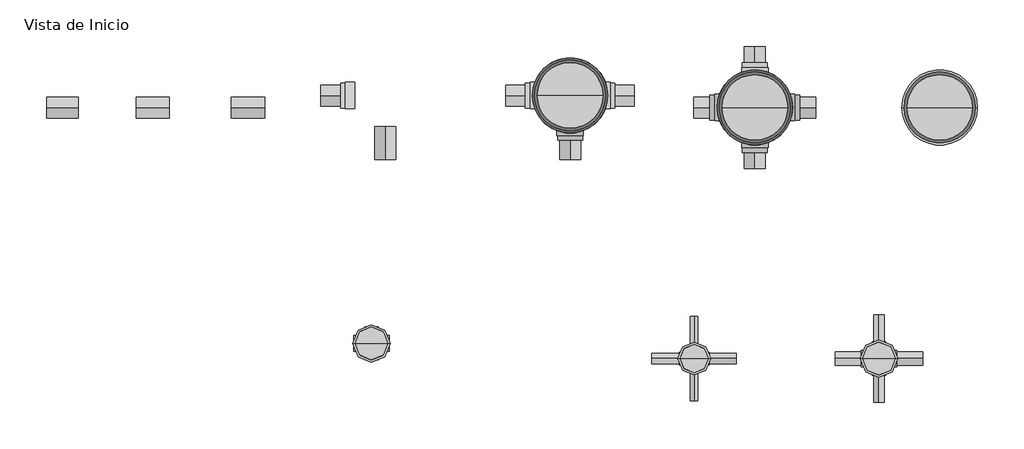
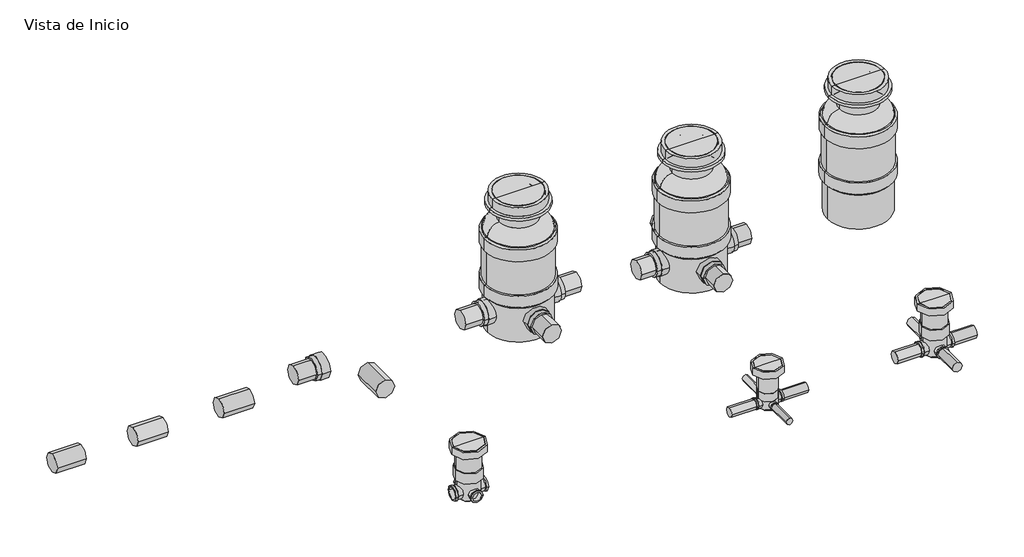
# One storey, incomplete: 20 pipe segments, 11 pipe fittings.
"""IFC4 building model written with IfcOpenShell, lengths in millimetres."""

from ifc_helpers import new_model, si_unit, point, frame, frame_2d, origin, place, context, project, spatial, circle_curve, trimmed, segment, composite_curve, outline, extrude, transform, mapped, element, save
from components import pipe_fitting_f6cc763c, pipe_fitting_6d74b92a, var_5ff11fb1, var_4e97a6d6, var_a0095c66, var_7e720924, var_46a39f45

model = new_model("IFC4")

# Units and contexts
model_context = context("Model", 3, world=origin())
ifc_project = project(units=[si_unit("LENGTHUNIT", "METRE", prefix="MILLI")], contexts=[model_context])

# Site, building, storey
site = spatial("IfcSite", under=ifc_project)
building = spatial("IfcBuilding", under=site)
storey = spatial("IfcBuildingStorey", under=building, Name="Vista de Inicio", Elevation=0.0)

# Pipe fittings
placement = place(None, origin())
pipe_fitting_shape = pipe_fitting_f6cc763c(model_context)
element("IfcPipeFitting", 1, ObjectType="PavcoWavin_UnionesDeTuberia_CajadeInspección315mm : Caja Inspección 315 mm", at=placement, inside=storey, context=model_context, shape_type="MappedRepresentation", body=[
    mapped(pipe_fitting_shape, transform((5609.7878277, -9291.5186456, 0.0), x_axis=(1.0, 0.0, 0.0), y_axis=(0.0, 1.0, 0.0), z_axis=(0.0, 0.0, 1.0))),
])
pipe_fitting_2_shape = pipe_fitting_6d74b92a(model_context)
element("IfcPipeFitting", 2, ObjectType="PavcoWavin_UnionesDeTuberia_CajadeInspección400mm : Caja Inspección 400 mm", at=placement, inside=storey, context=model_context, shape_type="MappedRepresentation", body=[
    mapped(pipe_fitting_2_shape, transform((8374.0344057, -9291.5186456, 0.0), x_axis=(1.0, 0.0, 0.0), y_axis=(0.0, 1.0, 0.0), z_axis=(0.0, 0.0, 1.0))),
])
element("IfcPipeFitting", 3, ObjectType="PavcoWavin_UnionesDeTuberia_CajadeInspección400mm : Caja Inspección 400 mm", at=placement, inside=storey, context=model_context, shape_type="MappedRepresentation", body=[
    mapped(pipe_fitting_2_shape, transform((784.1758485, -9064.2325694, 0.0), x_axis=(1.0, 0.0, 0.0), y_axis=(0.0, 1.0, 0.0), z_axis=(0.0, 0.0, 1.0))),
])
var_shape = var_5ff11fb1(model_context)
element("IfcPipeFitting", 4, ObjectType="PavcoWavin_UnionesDeTuberia_NovacamTee : Var.", at=placement, inside=storey, context=model_context, shape_type="MappedRepresentation", body=[
    mapped(var_shape, transform((3754.0344057, -5351.5186456, 0.0), x_axis=(-1.0, 0.0, 0.0), y_axis=(0.0, -1.0, 0.0), z_axis=(0.0, 0.0, 1.0))),
])
element("IfcPipeFitting", 5, ObjectType="PavcoWavin_UnionesDeTuberia_NovacamDobleTee : Var.", at=placement, inside=storey, context=model_context, shape_type="MappedRepresentation", body=[
    mapped(var_shape, transform((6518.2809836, -5531.5186456, 0.0), x_axis=(1.0, 0.0, 0.0), y_axis=(0.0, 1.0, 0.0), z_axis=(0.0, 0.0, 1.0))),
])
var_2_shape = var_4e97a6d6(model_context)
element("IfcPipeFitting", 6, ObjectType="PavcoWavin_UnionesDeTuberia_NovacamTipoTanque : Var.", at=placement, inside=storey, context=model_context, shape_type="MappedRepresentation", body=[
    mapped(var_2_shape, transform((9282.5275615, -5531.5186456, 0.0), x_axis=(1.0, 0.0, 0.0), y_axis=(0.0, 1.0, 0.0), z_axis=(0.0, 0.0, 1.0))),
])
var_3_shape = var_a0095c66(model_context)
element("IfcPipeFitting", 7, ObjectType="PavcoWavin_UnionesDeTubería_NoUsarConectorSalida : var.", at=placement, inside=storey, context=model_context, shape_type="MappedRepresentation", body=[
    mapped(var_3_shape, transform((461.0424688, -5351.5186456, 0.0), x_axis=(-1.0, 0.0, 0.0), y_axis=(0.0, -1.0, 0.0), z_axis=(0.0, 0.0, 1.0))),
])
element("IfcPipeFitting", 8, ObjectType="PavcoWavin_UnionesDeTubería_NoUsarConectorSalida : var.", at=placement, inside=storey, context=model_context, shape_type="MappedRepresentation", body=[
    mapped(var_3_shape, transform((3754.0344057, -5883.7640045, 0.0), x_axis=(0.0, -1.0, 0.0), y_axis=(1.0, 0.0, 0.0), z_axis=(0.0, 0.0, 1.0))),
])
element("IfcPipeFitting", 9, ObjectType="PavcoWavin_UnionesDeTubería_NoUsarConectorSalida : var.", at=placement, inside=storey, context=model_context, shape_type="MappedRepresentation", body=[
    mapped(var_3_shape, transform((6518.2809836, -4999.2732867, 0.0), x_axis=(0.0, 1.0, 0.0), y_axis=(-1.0, 0.0, 0.0), z_axis=(0.0, 0.0, 1.0))),
])
var_4_shape = var_7e720924(model_context)
element("IfcPipeFitting", 10, ObjectType="PavcoWavin_UnionesDeTubería_NoUsarConectorSalida : var.", at=placement, inside=storey, context=model_context, shape_type="MappedRepresentation", body=[
    mapped(var_4_shape, transform((6518.2809836, -6063.7640045, 0.0), x_axis=(0.0, -1.0, 0.0), y_axis=(1.0, 0.0, 0.0), z_axis=(0.0, 0.0, 1.0))),
])
var_5_shape = var_46a39f45(model_context)
element("IfcPipeFitting", 11, ObjectType="PavcoWavin_UnionesDeTubería_NoUsarCañuelaTee : var.", at=placement, inside=storey, context=model_context, shape_type="MappedRepresentation", body=[
    mapped(var_5_shape, transform((3684.7890468, -5351.5186456, 0.0), x_axis=(-1.0, 0.0, 0.0), y_axis=(0.0, -1.0, 0.0), z_axis=(0.0, 0.0, 1.0))),
])

# Pipe segments
element("IfcPipeSegment", 12, ObjectType="PavcoWavin_Tuberias_Novafort-S8-S4-S5_110a1200mm", at=placement, inside=storey, context=model_context, shape_type="SweptSolid", body=[
    extrude(outline(composite_curve([segment(trimmed(circle_curve(frame_2d((-5351.5186456, 0.0)), 157.5), [point((-5194.0186456, 0.0))], [point((-5351.5186456, -157.5))], False, "CARTESIAN"), True, "CONTINUOUS"), segment(trimmed(circle_curve(frame_2d((-5351.5186456, 0.0)), 157.5), [point((-5351.5186456, -157.5))], [point((-5509.0186456, 0.0))], False, "CARTESIAN"), True, "CONTINUOUS"), segment(trimmed(circle_curve(frame_2d((-5351.5186456, 0.0)), 157.5), [point((-5509.0186456, 0.0))], [point((-5351.5186456, 157.5))], False, "CARTESIAN"), True, "CONTINUOUS"), segment(trimmed(circle_curve(frame_2d((-5351.5186456, 0.0)), 157.5), [point((-5351.5186456, 157.5))], [point((-5194.0186456, 0.0))], False, "CARTESIAN"), True, "CONTINUOUS")], self_intersect=False)), frame((2791.0344057, 0.0, 0.0), z_axis=(1.0, 0.0, 0.0), x_axis=(0.0, 1.0, 0.0)), (0.0, 0.0, 1.0), 500.0),
])
element("IfcPipeSegment", 13, ObjectType="PavcoWavin_Tuberias_Novafort-S8-S4-S5_110a1200mm", at=placement, inside=storey, context=model_context, shape_type="SweptSolid", body=[
    extrude(outline(composite_curve([segment(trimmed(circle_curve(frame_2d((0.0, 3754.0344057)), 157.5), [point((0.0, 3596.5344057))], [point((-157.5, 3754.0344057))], False, "CARTESIAN"), True, "CONTINUOUS"), segment(trimmed(circle_curve(frame_2d((0.0, 3754.0344057)), 157.5), [point((-157.5, 3754.0344057))], [point((0.0, 3911.5344057))], False, "CARTESIAN"), True, "CONTINUOUS"), segment(trimmed(circle_curve(frame_2d((0.0, 3754.0344057)), 157.5), [point((0.0, 3911.5344057))], [point((157.5, 3754.0344057))], False, "CARTESIAN"), True, "CONTINUOUS"), segment(trimmed(circle_curve(frame_2d((0.0, 3754.0344057)), 157.5), [point((157.5, 3754.0344057))], [point((0.0, 3596.5344057))], False, "CARTESIAN"), True, "CONTINUOUS")], self_intersect=False)), frame((0.0, -6314.5186456, 0.0), z_axis=(0.0, 1.0, 0.0), x_axis=(0.0, 0.0, 1.0)), (0.0, 0.0, 1.0), 500.0),
])
element("IfcPipeSegment", 14, ObjectType="PavcoWavin_Tuberias_Novafort-S8-S4-S5_110a1200mm", at=placement, inside=storey, context=model_context, shape_type="SweptSolid", body=[
    extrude(outline(composite_curve([segment(trimmed(circle_curve(frame_2d((-5351.5186456, 0.0)), 157.5), [point((-5194.0186456, 0.0))], [point((-5351.5186456, -157.5))], False, "CARTESIAN"), True, "CONTINUOUS"), segment(trimmed(circle_curve(frame_2d((-5351.5186456, 0.0)), 157.5), [point((-5351.5186456, -157.5))], [point((-5509.0186456, 0.0))], False, "CARTESIAN"), True, "CONTINUOUS"), segment(trimmed(circle_curve(frame_2d((-5351.5186456, 0.0)), 157.5), [point((-5509.0186456, 0.0))], [point((-5351.5186456, 157.5))], False, "CARTESIAN"), True, "CONTINUOUS"), segment(trimmed(circle_curve(frame_2d((-5351.5186456, 0.0)), 157.5), [point((-5351.5186456, 157.5))], [point((-5194.0186456, 0.0))], False, "CARTESIAN"), True, "CONTINUOUS")], self_intersect=False)), frame((4217.0344057, 0.0, 0.0), z_axis=(1.0, 0.0, 0.0), x_axis=(0.0, 1.0, 0.0)), (0.0, 0.0, 1.0), 500.0),
])
element("IfcPipeSegment", 15, ObjectType="PavcoWavin_Tuberias_Novafort-S8-S4-S5_110a1200mm", at=placement, inside=storey, context=model_context, shape_type="SweptSolid", body=[
    extrude(outline(composite_curve([segment(trimmed(circle_curve(frame_2d((-5531.5186456, 0.0)), 157.5), [point((-5374.0186456, 0.0))], [point((-5531.5186456, -157.5))], False, "CARTESIAN"), True, "CONTINUOUS"), segment(trimmed(circle_curve(frame_2d((-5531.5186456, 0.0)), 157.5), [point((-5531.5186456, -157.5))], [point((-5689.0186456, 0.0))], False, "CARTESIAN"), True, "CONTINUOUS"), segment(trimmed(circle_curve(frame_2d((-5531.5186456, 0.0)), 157.5), [point((-5689.0186456, 0.0))], [point((-5531.5186456, 157.5))], False, "CARTESIAN"), True, "CONTINUOUS"), segment(trimmed(circle_curve(frame_2d((-5531.5186456, 0.0)), 157.5), [point((-5531.5186456, 157.5))], [point((-5374.0186456, 0.0))], False, "CARTESIAN"), True, "CONTINUOUS")], self_intersect=False)), frame((-4075.7053282, 0.0, 0.0), z_axis=(1.0, 0.0, 0.0), x_axis=(0.0, 1.0, 0.0)), (0.0, 0.0, 1.0), 474.0),
])
element("IfcPipeSegment", 16, ObjectType="PavcoWavin_Tuberias_Novafort-S8-S4-S5_110a1200mm", at=placement, inside=storey, context=model_context, shape_type="SweptSolid", body=[
    extrude(outline(composite_curve([segment(trimmed(circle_curve(frame_2d((-5531.5186456, 0.0)), 157.5), [point((-5689.0186456, 0.0))], [point((-5531.5186456, 157.5))], False, "CARTESIAN"), True, "CONTINUOUS"), segment(trimmed(circle_curve(frame_2d((-5531.5186456, 0.0)), 157.5), [point((-5531.5186456, 157.5))], [point((-5374.0186456, 0.0))], False, "CARTESIAN"), True, "CONTINUOUS"), segment(trimmed(circle_curve(frame_2d((-5531.5186456, 0.0)), 157.5), [point((-5374.0186456, 0.0))], [point((-5531.5186456, -157.5))], False, "CARTESIAN"), True, "CONTINUOUS"), segment(trimmed(circle_curve(frame_2d((-5531.5186456, 0.0)), 157.5), [point((-5531.5186456, -157.5))], [point((-5689.0186456, 0.0))], False, "CARTESIAN"), True, "CONTINUOUS")], self_intersect=False)), frame((-1311.4587502, 0.0, 0.0), z_axis=(1.0, 0.0, 0.0), x_axis=(0.0, 1.0, 0.0)), (0.0, 0.0, 1.0), 500.0),
])
element("IfcPipeSegment", 17, ObjectType="PavcoWavin_Tuberias_Novafort-S8-S4-S5_110a1200mm", at=placement, inside=storey, context=model_context, shape_type="SweptSolid", body=[
    extrude(outline(composite_curve([segment(trimmed(circle_curve(frame_2d((-5531.5186456, 0.0)), 157.5), [point((-5374.0186456, 0.0))], [point((-5531.5186456, -157.5))], False, "CARTESIAN"), True, "CONTINUOUS"), segment(trimmed(circle_curve(frame_2d((-5531.5186456, 0.0)), 157.5), [point((-5531.5186456, -157.5))], [point((-5689.0186456, 0.0))], False, "CARTESIAN"), True, "CONTINUOUS"), segment(trimmed(circle_curve(frame_2d((-5531.5186456, 0.0)), 157.5), [point((-5689.0186456, 0.0))], [point((-5531.5186456, 157.5))], False, "CARTESIAN"), True, "CONTINUOUS"), segment(trimmed(circle_curve(frame_2d((-5531.5186456, 0.0)), 157.5), [point((-5531.5186456, 157.5))], [point((-5374.0186456, 0.0))], False, "CARTESIAN"), True, "CONTINUOUS")], self_intersect=False)), frame((-2737.4587502, 0.0, 0.0), z_axis=(1.0, 0.0, 0.0), x_axis=(0.0, 1.0, 0.0)), (0.0, 0.0, 1.0), 500.0),
])
element("IfcPipeSegment", 18, ObjectType="PavcoWavin_Tuberias_Novafort-S8-S4-S5_110a1200mm", at=placement, inside=storey, context=model_context, shape_type="SweptSolid", body=[
    extrude(outline(composite_curve([segment(trimmed(circle_curve(frame_2d((-5351.5186456, 0.0)), 157.5), [point((-5509.0186456, 0.0))], [point((-5351.5186456, 157.5))], False, "CARTESIAN"), True, "CONTINUOUS"), segment(trimmed(circle_curve(frame_2d((-5351.5186456, 0.0)), 157.5), [point((-5351.5186456, 157.5))], [point((-5194.0186456, 0.0))], False, "CARTESIAN"), True, "CONTINUOUS"), segment(trimmed(circle_curve(frame_2d((-5351.5186456, 0.0)), 157.5), [point((-5194.0186456, 0.0))], [point((-5351.5186456, -157.5))], False, "CARTESIAN"), True, "CONTINUOUS"), segment(trimmed(circle_curve(frame_2d((-5351.5186456, 0.0)), 157.5), [point((-5351.5186456, -157.5))], [point((-5509.0186456, 0.0))], False, "CARTESIAN"), True, "CONTINUOUS")], self_intersect=False)), frame((26.7878277, 0.0, 0.0), z_axis=(1.0, 0.0, 0.0), x_axis=(0.0, 1.0, 0.0)), (0.0, 0.0, 1.0), 500.0),
])
element("IfcPipeSegment", 19, ObjectType="PavcoWavin_Tuberias_Novafort-S8-S4-S5_110a1200mm", at=placement, inside=storey, context=model_context, shape_type="SweptSolid", body=[
    extrude(outline(composite_curve([segment(trimmed(circle_curve(frame_2d((0.0, 989.7878277)), 157.5), [point((0.0, 832.2878277))], [point((-157.5, 989.7878277))], False, "CARTESIAN"), True, "CONTINUOUS"), segment(trimmed(circle_curve(frame_2d((0.0, 989.7878277)), 157.5), [point((-157.5, 989.7878277))], [point((0.0, 1147.2878277))], False, "CARTESIAN"), True, "CONTINUOUS"), segment(trimmed(circle_curve(frame_2d((0.0, 989.7878277)), 157.5), [point((0.0, 1147.2878277))], [point((157.5, 989.7878277))], False, "CARTESIAN"), True, "CONTINUOUS"), segment(trimmed(circle_curve(frame_2d((0.0, 989.7878277)), 157.5), [point((157.5, 989.7878277))], [point((0.0, 832.2878277))], False, "CARTESIAN"), True, "CONTINUOUS")], self_intersect=False)), frame((0.0, -6314.5186456, 0.0), z_axis=(0.0, 1.0, 0.0), x_axis=(0.0, 0.0, 1.0)), (0.0, 0.0, 1.0), 500.0),
])
element("IfcPipeSegment", 20, ObjectType="PavcoWavin_Tuberias_Novafort-S8-S4-S5_110a1200mm", at=placement, inside=storey, context=model_context, shape_type="SweptSolid", body=[
    extrude(outline(composite_curve([segment(trimmed(circle_curve(frame_2d((-5531.5186456, 0.0)), 157.5), [point((-5374.0186456, 0.0))], [point((-5531.5186456, -157.5))], False, "CARTESIAN"), True, "CONTINUOUS"), segment(trimmed(circle_curve(frame_2d((-5531.5186456, 0.0)), 157.5), [point((-5531.5186456, -157.5))], [point((-5689.0186456, 0.0))], False, "CARTESIAN"), True, "CONTINUOUS"), segment(trimmed(circle_curve(frame_2d((-5531.5186456, 0.0)), 157.5), [point((-5689.0186456, 0.0))], [point((-5531.5186456, 157.5))], False, "CARTESIAN"), True, "CONTINUOUS"), segment(trimmed(circle_curve(frame_2d((-5531.5186456, 0.0)), 157.5), [point((-5531.5186456, 157.5))], [point((-5374.0186456, 0.0))], False, "CARTESIAN"), True, "CONTINUOUS")], self_intersect=False)), frame((5605.2809836, 0.0, 0.0), z_axis=(1.0, 0.0, 0.0), x_axis=(0.0, 1.0, 0.0)), (0.0, 0.0, 1.0), 450.0),
])
element("IfcPipeSegment", 21, ObjectType="PavcoWavin_Tuberias_Novafort-S8-S4-S5_110a1200mm", at=placement, inside=storey, context=model_context, shape_type="SweptSolid", body=[
    extrude(outline(composite_curve([segment(trimmed(circle_curve(frame_2d((0.0, 6518.2809836)), 157.5), [point((0.0, 6360.7809836))], [point((-157.5, 6518.2809836))], False, "CARTESIAN"), True, "CONTINUOUS"), segment(trimmed(circle_curve(frame_2d((0.0, 6518.2809836)), 157.5), [point((-157.5, 6518.2809836))], [point((0.0, 6675.7809836))], False, "CARTESIAN"), True, "CONTINUOUS"), segment(trimmed(circle_curve(frame_2d((0.0, 6518.2809836)), 157.5), [point((0.0, 6675.7809836))], [point((157.5, 6518.2809836))], False, "CARTESIAN"), True, "CONTINUOUS"), segment(trimmed(circle_curve(frame_2d((0.0, 6518.2809836)), 157.5), [point((157.5, 6518.2809836))], [point((0.0, 6360.7809836))], False, "CARTESIAN"), True, "CONTINUOUS")], self_intersect=False)), frame((0.0, -6444.5186456, 0.0), z_axis=(0.0, 1.0, 0.0), x_axis=(0.0, 0.0, 1.0)), (0.0, 0.0, 1.0), 450.0),
])
element("IfcPipeSegment", 22, ObjectType="PavcoWavin_Tuberias_Novafort-S8-S4-S5_110a1200mm", at=placement, inside=storey, context=model_context, shape_type="SweptSolid", body=[
    extrude(outline(composite_curve([segment(trimmed(circle_curve(frame_2d((0.0, 6518.2809836)), 157.5), [point((0.0, 6675.7809836))], [point((157.5, 6518.2809836))], False, "CARTESIAN"), True, "CONTINUOUS"), segment(trimmed(circle_curve(frame_2d((0.0, 6518.2809836)), 157.5), [point((157.5, 6518.2809836))], [point((0.0, 6360.7809836))], False, "CARTESIAN"), True, "CONTINUOUS"), segment(trimmed(circle_curve(frame_2d((0.0, 6518.2809836)), 157.5), [point((0.0, 6360.7809836))], [point((-157.5, 6518.2809836))], False, "CARTESIAN"), True, "CONTINUOUS"), segment(trimmed(circle_curve(frame_2d((0.0, 6518.2809836)), 157.5), [point((-157.5, 6518.2809836))], [point((0.0, 6675.7809836))], False, "CARTESIAN"), True, "CONTINUOUS")], self_intersect=False)), frame((0.0, -5068.5186456, 0.0), z_axis=(0.0, 1.0, 0.0), x_axis=(0.0, 0.0, 1.0)), (0.0, 0.0, 1.0), 450.0),
])
element("IfcPipeSegment", 23, ObjectType="PavcoWavin_Tuberias_Novafort-S8-S4-S5_110a1200mm", at=placement, inside=storey, context=model_context, shape_type="SweptSolid", body=[
    extrude(outline(composite_curve([segment(trimmed(circle_curve(frame_2d((-5531.5186456, 0.0)), 157.5), [point((-5689.0186456, 0.0))], [point((-5531.5186456, 157.5))], False, "CARTESIAN"), True, "CONTINUOUS"), segment(trimmed(circle_curve(frame_2d((-5531.5186456, 0.0)), 157.5), [point((-5531.5186456, 157.5))], [point((-5374.0186456, 0.0))], False, "CARTESIAN"), True, "CONTINUOUS"), segment(trimmed(circle_curve(frame_2d((-5531.5186456, 0.0)), 157.5), [point((-5374.0186456, 0.0))], [point((-5531.5186456, -157.5))], False, "CARTESIAN"), True, "CONTINUOUS"), segment(trimmed(circle_curve(frame_2d((-5531.5186456, 0.0)), 157.5), [point((-5531.5186456, -157.5))], [point((-5689.0186456, 0.0))], False, "CARTESIAN"), True, "CONTINUOUS")], self_intersect=False)), frame((6981.2809836, 0.0, 0.0), z_axis=(1.0, 0.0, 0.0), x_axis=(0.0, 1.0, 0.0)), (0.0, 0.0, 1.0), 450.0),
])
element("IfcPipeSegment", 24, ObjectType="PavcoWavin_Tuberias_Novafort-S8-S4-S5_110a1200mm", at=placement, inside=storey, context=model_context, shape_type="SweptSolid", body=[
    extrude(outline(composite_curve([segment(trimmed(circle_curve(frame_2d((-9291.5186456, 0.0)), 80.0), [point((-9371.5186456, 0.0))], [point((-9291.5186456, 80.0))], False, "CARTESIAN"), True, "CONTINUOUS"), segment(trimmed(circle_curve(frame_2d((-9291.5186456, 0.0)), 80.0), [point((-9291.5186456, 80.0))], [point((-9211.5186456, 0.0))], False, "CARTESIAN"), True, "CONTINUOUS"), segment(trimmed(circle_curve(frame_2d((-9291.5186456, 0.0)), 80.0), [point((-9211.5186456, 0.0))], [point((-9291.5186456, -80.0))], False, "CARTESIAN"), True, "CONTINUOUS"), segment(trimmed(circle_curve(frame_2d((-9291.5186456, 0.0)), 80.0), [point((-9291.5186456, -80.0))], [point((-9371.5186456, 0.0))], False, "CARTESIAN"), True, "CONTINUOUS")], self_intersect=False)), frame((5742.2878277, 0.0, 0.0), z_axis=(1.0, 0.0, 0.0), x_axis=(0.0, 1.0, 0.0)), (0.0, 0.0, 1.0), 500.0),
])
element("IfcPipeSegment", 25, ObjectType="PavcoWavin_Tuberias_Novafort-S8-S4-S5_110a1200mm", at=placement, inside=storey, context=model_context, shape_type="SweptSolid", body=[
    extrude(outline(composite_curve([segment(trimmed(circle_curve(frame_2d((0.0, 5609.7878277)), 55.0), [point((0.0, 5554.7878277))], [point((-55.0, 5609.7878277))], False, "CARTESIAN"), True, "CONTINUOUS"), segment(trimmed(circle_curve(frame_2d((0.0, 5609.7878277)), 55.0), [point((-55.0, 5609.7878277))], [point((0.0, 5664.7878277))], False, "CARTESIAN"), True, "CONTINUOUS"), segment(trimmed(circle_curve(frame_2d((0.0, 5609.7878277)), 55.0), [point((0.0, 5664.7878277))], [point((55.0, 5609.7878277))], False, "CARTESIAN"), True, "CONTINUOUS"), segment(trimmed(circle_curve(frame_2d((0.0, 5609.7878277)), 55.0), [point((55.0, 5609.7878277))], [point((0.0, 5554.7878277))], False, "CARTESIAN"), True, "CONTINUOUS")], self_intersect=False)), frame((0.0, -9924.0186456, 0.0), z_axis=(0.0, 1.0, 0.0), x_axis=(0.0, 0.0, 1.0)), (0.0, 0.0, 1.0), 500.0),
])
element("IfcPipeSegment", 26, ObjectType="PavcoWavin_Tuberias_Novafort-S8-S4-S5_110a1200mm", at=placement, inside=storey, context=model_context, shape_type="SweptSolid", body=[
    extrude(outline(composite_curve([segment(trimmed(circle_curve(frame_2d((-9291.5186456, 0.0)), 80.0), [point((-9211.5186456, 0.0))], [point((-9291.5186456, -80.0))], False, "CARTESIAN"), True, "CONTINUOUS"), segment(trimmed(circle_curve(frame_2d((-9291.5186456, 0.0)), 80.0), [point((-9291.5186456, -80.0))], [point((-9371.5186456, 0.0))], False, "CARTESIAN"), True, "CONTINUOUS"), segment(trimmed(circle_curve(frame_2d((-9291.5186456, 0.0)), 80.0), [point((-9371.5186456, 0.0))], [point((-9291.5186456, 80.0))], False, "CARTESIAN"), True, "CONTINUOUS"), segment(trimmed(circle_curve(frame_2d((-9291.5186456, 0.0)), 80.0), [point((-9291.5186456, 80.0))], [point((-9211.5186456, 0.0))], False, "CARTESIAN"), True, "CONTINUOUS")], self_intersect=False)), frame((4977.2878277, 0.0, 0.0), z_axis=(1.0, 0.0, 0.0), x_axis=(0.0, 1.0, 0.0)), (0.0, 0.0, 1.0), 500.0),
])
element("IfcPipeSegment", 27, ObjectType="PavcoWavin_Tuberias_Novafort-S8-S4-S5_110a1200mm", at=placement, inside=storey, context=model_context, shape_type="SweptSolid", body=[
    extrude(outline(composite_curve([segment(trimmed(circle_curve(frame_2d((0.0, 5609.7878277)), 55.0), [point((0.0, 5664.7878277))], [point((55.0, 5609.7878277))], False, "CARTESIAN"), True, "CONTINUOUS"), segment(trimmed(circle_curve(frame_2d((0.0, 5609.7878277)), 55.0), [point((55.0, 5609.7878277))], [point((0.0, 5554.7878277))], False, "CARTESIAN"), True, "CONTINUOUS"), segment(trimmed(circle_curve(frame_2d((0.0, 5609.7878277)), 55.0), [point((0.0, 5554.7878277))], [point((-55.0, 5609.7878277))], False, "CARTESIAN"), True, "CONTINUOUS"), segment(trimmed(circle_curve(frame_2d((0.0, 5609.7878277)), 55.0), [point((-55.0, 5609.7878277))], [point((0.0, 5664.7878277))], False, "CARTESIAN"), True, "CONTINUOUS")], self_intersect=False)), frame((0.0, -9159.0186456, 0.0), z_axis=(0.0, 1.0, 0.0), x_axis=(0.0, 0.0, 1.0)), (0.0, 0.0, 1.0), 500.0),
])
element("IfcPipeSegment", 28, ObjectType="PavcoWavin_Tuberias_Novafort-S8-S4-S5_110a1200mm", at=placement, inside=storey, context=model_context, shape_type="SweptSolid", body=[
    extrude(outline(composite_curve([segment(trimmed(circle_curve(frame_2d((-9291.5186456, 0.0)), 100.0), [point((-9191.5186456, 0.0))], [point((-9291.5186456, -100.0))], False, "CARTESIAN"), True, "CONTINUOUS"), segment(trimmed(circle_curve(frame_2d((-9291.5186456, 0.0)), 100.0), [point((-9291.5186456, -100.0))], [point((-9391.5186456, 0.0))], False, "CARTESIAN"), True, "CONTINUOUS"), segment(trimmed(circle_curve(frame_2d((-9291.5186456, 0.0)), 100.0), [point((-9391.5186456, 0.0))], [point((-9291.5186456, 100.0))], False, "CARTESIAN"), True, "CONTINUOUS"), segment(trimmed(circle_curve(frame_2d((-9291.5186456, 0.0)), 100.0), [point((-9291.5186456, 100.0))], [point((-9191.5186456, 0.0))], False, "CARTESIAN"), True, "CONTINUOUS")], self_intersect=False)), frame((7718.0344057, 0.0, 0.0), z_axis=(1.0, 0.0, 0.0), x_axis=(0.0, 1.0, 0.0)), (0.0, 0.0, 1.0), 500.0),
])
element("IfcPipeSegment", 29, ObjectType="PavcoWavin_Tuberias_Novafort-S8-S4-S5_110a1200mm", at=placement, inside=storey, context=model_context, shape_type="SweptSolid", body=[
    extrude(outline(composite_curve([segment(trimmed(circle_curve(frame_2d((0.0, 8374.0344057)), 80.0), [point((0.0, 8454.0344057))], [point((80.0, 8374.0344057))], False, "CARTESIAN"), True, "CONTINUOUS"), segment(trimmed(circle_curve(frame_2d((0.0, 8374.0344057)), 80.0), [point((80.0, 8374.0344057))], [point((0.0, 8294.0344057))], False, "CARTESIAN"), True, "CONTINUOUS"), segment(trimmed(circle_curve(frame_2d((0.0, 8374.0344057)), 80.0), [point((0.0, 8294.0344057))], [point((-80.0, 8374.0344057))], False, "CARTESIAN"), True, "CONTINUOUS"), segment(trimmed(circle_curve(frame_2d((0.0, 8374.0344057)), 80.0), [point((-80.0, 8374.0344057))], [point((0.0, 8454.0344057))], False, "CARTESIAN"), True, "CONTINUOUS")], self_intersect=False)), frame((0.0, -9135.5186456, 0.0), z_axis=(0.0, 1.0, 0.0), x_axis=(0.0, 0.0, 1.0)), (0.0, 0.0, 1.0), 500.0),
])
element("IfcPipeSegment", 30, ObjectType="PavcoWavin_Tuberias_Novafort-S8-S4-S5_110a1200mm", at=placement, inside=storey, context=model_context, shape_type="SweptSolid", body=[
    extrude(outline(composite_curve([segment(trimmed(circle_curve(frame_2d((-9291.5186456, 0.0)), 100.0), [point((-9391.5186456, 0.0))], [point((-9291.5186456, 100.0))], False, "CARTESIAN"), True, "CONTINUOUS"), segment(trimmed(circle_curve(frame_2d((-9291.5186456, 0.0)), 100.0), [point((-9291.5186456, 100.0))], [point((-9191.5186456, 0.0))], False, "CARTESIAN"), True, "CONTINUOUS"), segment(trimmed(circle_curve(frame_2d((-9291.5186456, 0.0)), 100.0), [point((-9191.5186456, 0.0))], [point((-9291.5186456, -100.0))], False, "CARTESIAN"), True, "CONTINUOUS"), segment(trimmed(circle_curve(frame_2d((-9291.5186456, 0.0)), 100.0), [point((-9291.5186456, -100.0))], [point((-9391.5186456, 0.0))], False, "CARTESIAN"), True, "CONTINUOUS")], self_intersect=False)), frame((8530.0344057, 0.0, 0.0), z_axis=(1.0, 0.0, 0.0), x_axis=(0.0, 1.0, 0.0)), (0.0, 0.0, 1.0), 500.0),
])
element("IfcPipeSegment", 31, ObjectType="PavcoWavin_Tuberias_Novafort-S8-S4-S5_110a1200mm", at=placement, inside=storey, context=model_context, shape_type="SweptSolid", body=[
    extrude(outline(composite_curve([segment(trimmed(circle_curve(frame_2d((0.0, 8374.0344057)), 80.0), [point((0.0, 8294.0344057))], [point((-80.0, 8374.0344057))], False, "CARTESIAN"), True, "CONTINUOUS"), segment(trimmed(circle_curve(frame_2d((0.0, 8374.0344057)), 80.0), [point((-80.0, 8374.0344057))], [point((0.0, 8454.0344057))], False, "CARTESIAN"), True, "CONTINUOUS"), segment(trimmed(circle_curve(frame_2d((0.0, 8374.0344057)), 80.0), [point((0.0, 8454.0344057))], [point((80.0, 8374.0344057))], False, "CARTESIAN"), True, "CONTINUOUS"), segment(trimmed(circle_curve(frame_2d((0.0, 8374.0344057)), 80.0), [point((80.0, 8374.0344057))], [point((0.0, 8294.0344057))], False, "CARTESIAN"), True, "CONTINUOUS")], self_intersect=False)), frame((0.0, -9947.5186456, 0.0), z_axis=(0.0, 1.0, 0.0), x_axis=(0.0, 0.0, 1.0)), (0.0, 0.0, 1.0), 500.0),
])

save(model, "model.ifc")
